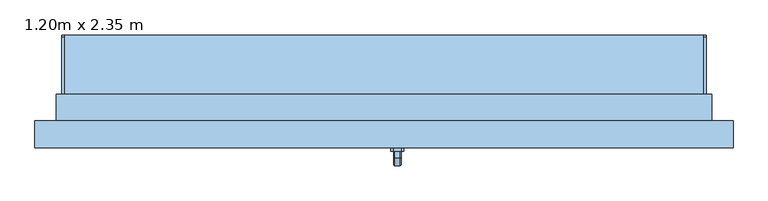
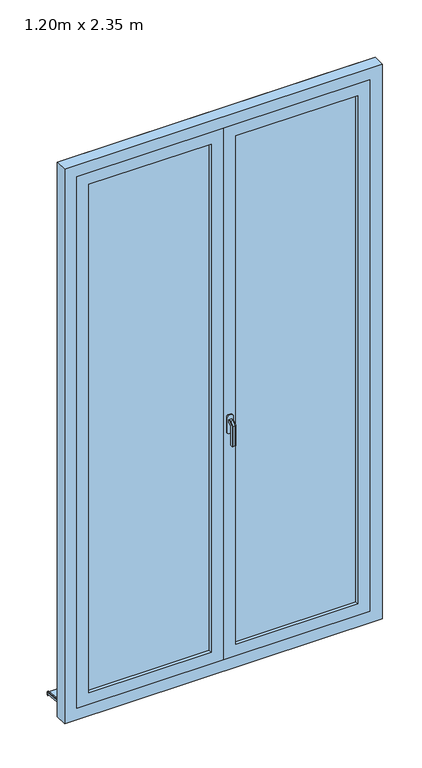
"""IFC4 building model written with IfcOpenShell, lengths in millimetres: window geometry, PF 2 Vantaux - Droits : 1.20m x 2.35 m."""

from ifc_helpers import new_model, si_unit, point, frame, frame_2d, origin, place, context, project, spatial, polyline, circle_curve, trimmed, segment, composite_curve, outline, extrude, faceted_brep, source, transform, mapped, element, save


def window_1_20m_x_2_35_m_5574f566(model_context):
    return source(origin(), model_context, "Body", "SolidModel", [
        faceted_brep([(30.6460097, -106.0, 1122.0339292), (32.0339292, -106.0, 1120.6460097), (32.0339292, -106.0, 1109.3323012), (30.6676988, -106.0, 1107.9660708), (19.3323012, -106.0, 1107.9660708), (17.9660708, -106.0, 1109.3323012), (17.9660708, -106.0, 1120.6460097), (19.3539903, -106.0, 1122.0339292), (30.6460097, -118.9135489, 1122.0339292), (32.0339292, -118.3386538, 1120.6460097), (32.0339292, -131.6460097, 1107.3386538), (32.0339292, -131.6460097, 1020.0), (32.0339292, -120.3323012, 1020.0), (32.0339292, -120.3323012, 1102.6523623), (32.0339292, -113.6523623, 1109.3323012), (30.6676988, -113.0864511, 1107.9660708), (19.3323012, -113.0864511, 1107.9660708), (17.9660708, -113.6523623, 1109.3323012), (17.9660708, -120.3323012, 1102.6523623), (17.9660708, -120.3323012, 1020.0), (17.9660708, -131.6460097, 1020.0), (17.9660708, -131.6460097, 1107.3386538), (17.9660708, -118.3386538, 1120.6460097), (19.3539903, -118.9135489, 1122.0339292), (30.6460097, -133.0339292, 1107.9135489), (30.6676988, -118.9660708, 1102.0864511), (19.3323012, -118.9660708, 1102.0864511), (19.3539903, -133.0339292, 1107.9135489), (30.6460097, -133.0339292, 1020.0), (19.3539903, -133.0339292, 1020.0), (19.3323012, -118.9660708, 1020.0), (30.6676988, -118.9660708, 1020.0)], [[[0, 1, 2, 3, 4, 5, 6, 7]], [[1, 0, 8, 9]], [[2, 1, 9, 10, 11, 12, 13, 14]], [[3, 2, 14, 15]], [[4, 3, 15, 16]], [[5, 4, 16, 17]], [[6, 5, 17, 18, 19, 20, 21, 22]], [[7, 6, 22, 23]], [[0, 7, 23, 8]], [[9, 8, 24, 10]], [[15, 14, 13, 25]], [[16, 15, 25, 26]], [[17, 16, 26, 18]], [[23, 22, 21, 27]], [[8, 23, 27, 24]], [[28, 29, 20, 19, 30, 31, 12, 11]], [[10, 24, 28, 11]], [[25, 13, 12, 31]], [[26, 25, 31, 30]], [[18, 26, 30, 19]], [[27, 21, 20, 29]], [[24, 27, 29, 28]]]),
        extrude(outline(polyline([(1140.0, 32.0), (1140.0, 18.0), (1135.0, 13.0), (1065.0, 13.0), (1060.0, 18.0), (1060.0, 32.0), (1065.0, 37.0), (1135.0, 37.0), (1140.0, 32.0)])), frame((0.0, -106.0, 0.0), z_axis=(0.0, 1.0, 0.0), x_axis=(0.0, 0.0, 1.0)), (0.0, 0.0, 1.0), 6.0),
        extrude(outline(polyline([(110.0288776, 26.588626), (110.0288776, 15.5104235), (105.0288776, 16.0359447), (105.0288776, 21.8589354), (-20.0, 35.0), (-20.0, 50.0), (-15.0, 50.0), (-15.0, 39.7296906), (110.0288776, 26.588626)])), frame((-600.0, 0.0, 0.0), z_axis=(1.0, 0.0, 0.0), x_axis=(0.0, 1.0, 0.0)), (0.0, 0.0, 1.0), 1200.0),
        extrude(outline(composite_curve([segment(polyline([(110.0288776, 26.588626), (-15.0, 39.7296906), (-15.0, 44.757232), (106.4469915, 31.9926388)]), True, "CONTINUOUS"), segment(trimmed(circle_curve(frame_2d((106.0288776, 28.0145512)), 4.0), [point((106.4469915, 31.9926388))], [point((110.0288776, 28.0145512))], False, "CARTESIAN"), True, "CONTINUOUS"), segment(polyline([(110.0288776, 28.0145512), (110.0288776, 26.588626)]), True, "CONTINUOUS")], self_intersect=False)), frame((-600.0, 0.0, 0.0), z_axis=(1.0, 0.0, 0.0), x_axis=(0.0, 1.0, 0.0)), (0.0, 0.0, 1.0), 5.0),
        extrude(outline(composite_curve([segment(polyline([(110.0288776, 26.588626), (-15.0, 39.7296906), (-15.0, 44.757232), (106.4469915, 31.9926388)]), True, "CONTINUOUS"), segment(trimmed(circle_curve(frame_2d((106.0288776, 28.0145512)), 4.0), [point((106.4469915, 31.9926388))], [point((110.0288776, 28.0145512))], False, "CARTESIAN"), True, "CONTINUOUS"), segment(polyline([(110.0288776, 28.0145512), (110.0288776, 26.588626)]), True, "CONTINUOUS")], self_intersect=False)), frame((595.0, 0.0, 0.0), z_axis=(1.0, 0.0, 0.0), x_axis=(0.0, 1.0, 0.0)), (0.0, 0.0, 1.0), 5.0),
        extrude(outline(polyline([(85.0, 0.0), (2385.0, 0.0), (2385.0, -600.0), (85.0, -600.0), (85.0, 0.0)]), holes=[polyline([(135.0, -550.0), (2335.0, -550.0), (2335.0, -50.0), (135.0, -50.0), (135.0, -550.0)])]), frame((0.0, -100.0, 0.0), z_axis=(0.0, 1.0, 0.0), x_axis=(0.0, 0.0, 1.0)), (0.0, 0.0, 1.0), 40.0),
        extrude(outline(polyline([(50.0, -74.0), (550.0, -74.0), (550.0, -86.0), (50.0, -86.0), (50.0, -74.0)])), frame((0.0, 0.0, 135.0), z_axis=(0.0, 0.0, 1.0), x_axis=(1.0, 0.0, 0.0)), (0.0, 0.0, 1.0), 2200.0),
        extrude(outline(polyline([(-550.0, -74.0), (-50.0, -74.0), (-50.0, -86.0), (-550.0, -86.0), (-550.0, -74.0)])), frame((0.0, 0.0, 135.0), z_axis=(0.0, 0.0, 1.0), x_axis=(1.0, 0.0, 0.0)), (0.0, 0.0, 1.0), 2200.0),
        extrude(outline(polyline([(85.0, 600.0), (2385.0, 600.0), (2385.0, 0.0), (85.0, 0.0), (85.0, 600.0)]), holes=[polyline([(135.0, 50.0), (2335.0, 50.0), (2335.0, 550.0), (135.0, 550.0), (135.0, 50.0)])]), frame((0.0, -100.0, 0.0), z_axis=(0.0, 1.0, 0.0), x_axis=(0.0, 0.0, 1.0)), (0.0, 0.0, 1.0), 40.0),
        faceted_brep([(-650.0, -100.0, 35.0), (-650.0, -50.0, 35.0), (-600.0, -50.0, 35.0), (-600.0, -20.0, 35.0), (600.0, -20.0, 35.0), (600.0, -50.0, 35.0), (650.0, -50.0, 35.0), (650.0, -100.0, 35.0), (-650.0, -100.0, 2435.0), (-650.0, -50.0, 2435.0), (650.0, -50.0, 2435.0), (600.0, -50.0, 74.3761425), (-600.0, -50.0, 74.3761425), (-585.0, -50.0, 2370.0), (-585.0, -50.0, 100.0), (585.0, -50.0, 100.0), (585.0, -50.0, 2370.0), (-600.0, 0.0, 60.9786829), (-600.0, 0.0, 45.0), (-600.0, -10.0, 45.0), (-600.0, -10.0, 50.0), (-600.0, -20.0, 50.0), (600.0, -20.0, 50.0), (600.0, -10.0, 50.0), (600.0, -10.0, 45.0), (600.0, 0.0, 45.0), (600.0, 0.0, 60.9786829), (650.0, -100.0, 2435.0), (600.0, -100.0, 2385.0), (600.0, -100.0, 85.0), (-600.0, -100.0, 85.0), (-600.0, -100.0, 2385.0), (-585.0, -60.0, 2370.0), (-585.0, -60.0, 100.0), (585.0, -60.0, 100.0), (585.0, -60.0, 2370.0), (600.0, -60.0, 2385.0), (-600.0, -60.0, 2385.0), (-600.0, -60.0, 85.0), (600.0, -60.0, 85.0)], [[[0, 1, 2, 3, 4, 5, 6, 7]], [[1, 0, 8, 9]], [[1, 9, 10, 6, 5, 11, 12, 2], [13, 14, 15, 16]], [[12, 17, 18, 19, 20, 21, 3, 2]], [[3, 21, 22, 4]], [[4, 22, 23, 24, 25, 26, 11, 5]], [[6, 10, 27, 7]], [[0, 7, 27, 8], [28, 29, 30, 31]], [[13, 32, 33, 14]], [[33, 34, 15, 14]], [[35, 16, 15, 34]], [[17, 12, 11, 26]], [[36, 37, 38, 39], [32, 35, 34, 33]], [[38, 37, 31, 30]], [[30, 29, 39, 38]], [[28, 36, 39, 29]], [[18, 17, 26, 25]], [[19, 18, 25, 24]], [[20, 19, 24, 23]], [[21, 20, 23, 22]], [[13, 16, 35, 32]], [[37, 36, 28, 31]], [[10, 9, 8, 27]]]),
        extrude(outline(polyline([(35.0, -610.0), (35.0, -600.0), (2385.0, -600.0), (2385.0, 600.0), (35.0, 600.0), (35.0, 610.0), (2395.0, 610.0), (2395.0, -610.0), (35.0, -610.0)])), frame((0.0, -50.0, 0.0), z_axis=(0.0, 1.0, 0.0), x_axis=(0.0, 0.0, 1.0)), (0.0, 0.0, 1.0), 50.0),
        extrude(outline(polyline([(20.0, -52.0), (20.0, -60.0), (-20.0, -60.0), (-20.0, -52.0), (20.0, -52.0)])), frame((0.0, 0.0, 100.0), z_axis=(0.0, 0.0, 1.0), x_axis=(1.0, 0.0, 0.0)), (0.0, 0.0, 1.0), 2270.0),
    ])


if __name__ == "__main__":
    model = new_model("IFC4")
    model_context = context("Model", 3, world=origin())
    ifc_project = project(units=[si_unit("LENGTHUNIT", "METRE", prefix="MILLI")], contexts=[model_context])
    site = spatial("IfcSite", under=ifc_project)
    building = spatial("IfcBuilding", under=site)
    placement = place(None, origin())
    window_1_20m_x_2_35_m_shape = window_1_20m_x_2_35_m_5574f566(model_context)
    element("IfcWindow", 1, ObjectType="PF 2 Vantaux - Droits : 1.20m x 2.35 m", at=placement, inside=building, context=model_context, shape_type="MappedRepresentation", body=[
        mapped(window_1_20m_x_2_35_m_shape, transform((0.0, 0.0, 0.0), x_axis=(1.0, 0.0, 0.0), y_axis=(0.0, 1.0, 0.0), z_axis=(0.0, 0.0, 1.0))),
    ])
    save(model, "model.ifc")
